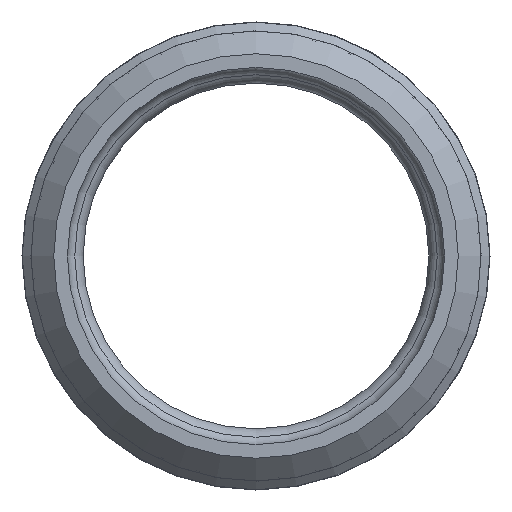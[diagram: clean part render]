
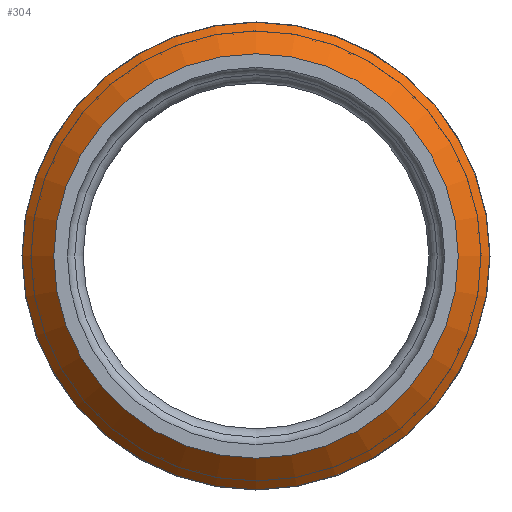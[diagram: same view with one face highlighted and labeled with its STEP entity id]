
A CAD part, front view. The second image highlights one B-rep face of the part: STEP entity #304.
In plain terms, the highlighted conical face has half-angle 45 degrees and reference radius 41.44 mm.
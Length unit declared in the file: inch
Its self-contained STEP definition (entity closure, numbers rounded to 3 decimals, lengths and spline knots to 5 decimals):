
#241=CARTESIAN_POINT('',(0.0,-6.595,-1.4115));
#242=VERTEX_POINT('',#241);
#243=CARTESIAN_POINT('',(0.,-6.595,1.4115));
#244=VERTEX_POINT('',#243);
#245=CARTESIAN_POINT('',(0.0,-6.595,0.0));
#246=DIRECTION('',(0.0,1.0,0.0));
#247=DIRECTION('',(0.0,0.0,-1.0));
#248=AXIS2_PLACEMENT_3D('',#245,#246,#247);
#249=CIRCLE('',#248,1.4115);
#250=EDGE_CURVE('',#242,#244,#249,.T.);
#252=CARTESIAN_POINT('',(0.0,-6.595,0.0));
#253=DIRECTION('',(0.0,1.0,0.0));
#254=DIRECTION('',(0.0,0.0,-1.0));
#255=AXIS2_PLACEMENT_3D('',#252,#253,#254);
#256=CIRCLE('',#255,1.4115);
#257=EDGE_CURVE('',#244,#242,#256,.T.);
#267=CARTESIAN_POINT('',(0.0,-6.375,-1.6315));
#268=VERTEX_POINT('',#267);
#269=CARTESIAN_POINT('',(0.,-6.375,1.6315));
#270=VERTEX_POINT('',#269);
#271=CARTESIAN_POINT('',(0.0,-6.375,0.0));
#272=DIRECTION('',(0.0,-1.0,0.0));
#273=DIRECTION('',(0.0,0.0,-1.0));
#274=AXIS2_PLACEMENT_3D('',#271,#272,#273);
#275=CIRCLE('',#274,1.6315);
#276=EDGE_CURVE('',#268,#270,#275,.T.);
#278=CARTESIAN_POINT('',(0.0,-6.375,0.0));
#279=DIRECTION('',(0.0,-1.0,0.0));
#280=DIRECTION('',(0.0,0.0,-1.0));
#281=AXIS2_PLACEMENT_3D('',#278,#279,#280);
#282=CIRCLE('',#281,1.6315);
#283=EDGE_CURVE('',#270,#268,#282,.T.);
#291=CARTESIAN_POINT('',(0.0,-6.375,0.0));
#292=DIRECTION('',(0.,1.0,0.));
#293=DIRECTION('',(0.0,0.0,-1.0));
#294=AXIS2_PLACEMENT_3D('',#291,#292,#293);
#295=CONICAL_SURFACE('',#294,1.6315,45.);
#296=ORIENTED_EDGE('',*,*,#276,.T.);
#297=ORIENTED_EDGE('',*,*,#283,.T.);
#298=EDGE_LOOP('',(#296,#297));
#299=FACE_OUTER_BOUND('',#298,.T.);
#300=ORIENTED_EDGE('',*,*,#250,.T.);
#301=ORIENTED_EDGE('',*,*,#257,.T.);
#302=EDGE_LOOP('',(#300,#301));
#303=FACE_BOUND('',#302,.T.);
#304=ADVANCED_FACE('',(#299,#303),#295,.T.);
